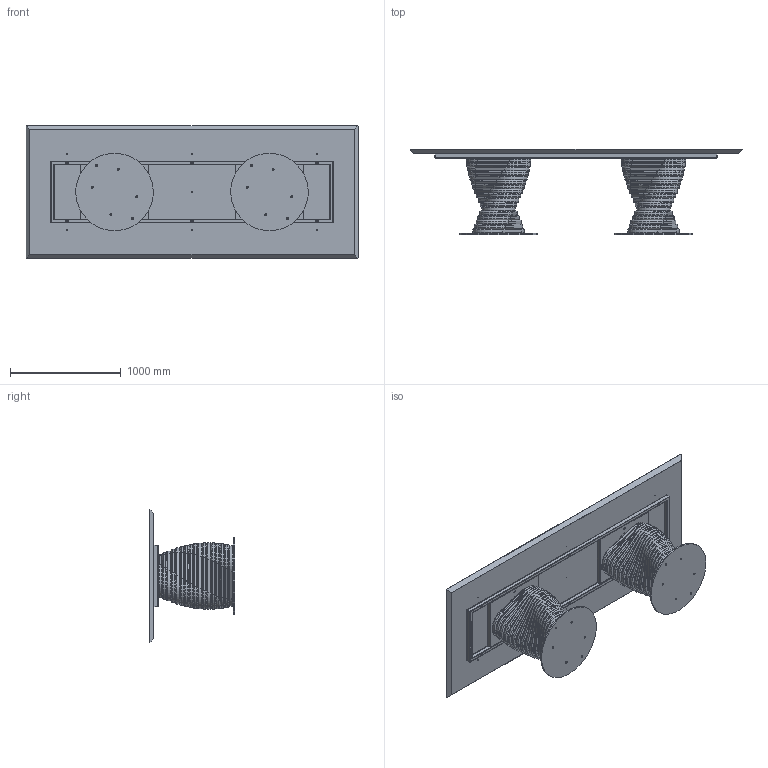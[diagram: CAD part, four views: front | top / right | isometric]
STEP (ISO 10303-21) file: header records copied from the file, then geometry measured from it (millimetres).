
FILE_DESCRIPTION (( 'STEP AP203' ), '1' );
FILE_NAME ('RO24W.STEP', '2024-08-07T13:18:49', ( '' ), ( '' ), 'SwSTEP 2.0', 'SolidWorks 2022', '' );
FILE_SCHEMA (( 'CONFIG_CONTROL_DESIGN' ));
Length unit declared in the file: millimetre
Products named in the file (15): ROBX00000-00-ROTOLO BASE 17 ANELLI; M8xXXmm_hex_M8X20mm; ROB200000-00-PIASTRA BASE_Ø70cm; TTAV03-06-TELAIO UNIVERSALE X TAVOLI 300-340cm; RO24W; M8xXXmm_M8x20mm; W2XCMXX-00-Piani Rettangolari in legno_3000 x 1200; TTAV03_01-06-RING TUBO TELAIO UNIVERSALE X TAVOLI 300-340cm; ROBX00000MED-00-Anello rotolo MEDIO_Default<A macchina>; ROBX00000SUP-00-Anello rotolo SUPERIORE_Default<A macchina>; TTAV03_02-06-VASSOIO IRRIGIDIMENTO TELAIO UNIVERSALE RETTANGOLARE; ROBX00000INF-00-Anello rotolo INFERIORE_Default<A macchina>; M8xXXmm_M8x55mm; rondella M8_8X24; COLLO TELAIO UNIVERSALE TTAV03 CON FERRAMENTA_MTG TOP LEGNO-MARMO-KING
Assembly tree (67 placements, depth 4):
  RO24W
    ROB200000-00-PIASTRA BASE_Ø70cm  x2
    COLLO TELAIO UNIVERSALE TTAV03 CON FERRAMENTA_MTG TOP LEGNO-MARMO-KING
      TTAV03-06-TELAIO UNIVERSALE X TAVOLI 300-340cm
        TTAV03_01-06-RING TUBO TELAIO UNIVERSALE X TAVOLI 300-340cm
        TTAV03_02-06-VASSOIO IRRIGIDIMENTO TELAIO UNIVERSALE RETTANGOLARE  x2
      rondella M8_8X24  x6
      M8xXXmm_M8x55mm  x6
    ROBX00000-00-ROTOLO BASE 17 ANELLI  x2
      ROBX00000INF-00-Anello rotolo INFERIORE_Default<A macchina>
      ROBX00000MED-00-Anello rotolo MEDIO_Default<A macchina>
      ROBX00000SUP-00-Anello rotolo SUPERIORE_Default<A macchina>
    M8xXXmm_hex_M8X20mm  x12
    rondella M8_8X24  x8
    M8xXXmm_M8x20mm  x8
    W2XCMXX-00-Piani Rettangolari in legno_3000 x 1200
Bounding box: 3000 x 770 x 1200 mm (x, y, z)
Volume: 155339394.2 mm3; surface area: 21904913.3 mm2
Topology: 182 solids, 182 shells, 3100 faces, 7302 edges, 4495 vertices
Faces by surface type: plane 1238, cylinder 1054, torus 464, cone 336, sphere 8
Entity records: 24079 total; most frequent: CARTESIAN_POINT 5247, DIRECTION 3476, ORIENTED_EDGE 3140, EDGE_CURVE 1570, AXIS2_PLACEMENT_3D 1317, VERTEX_POINT 978, LINE 842, VECTOR 842
